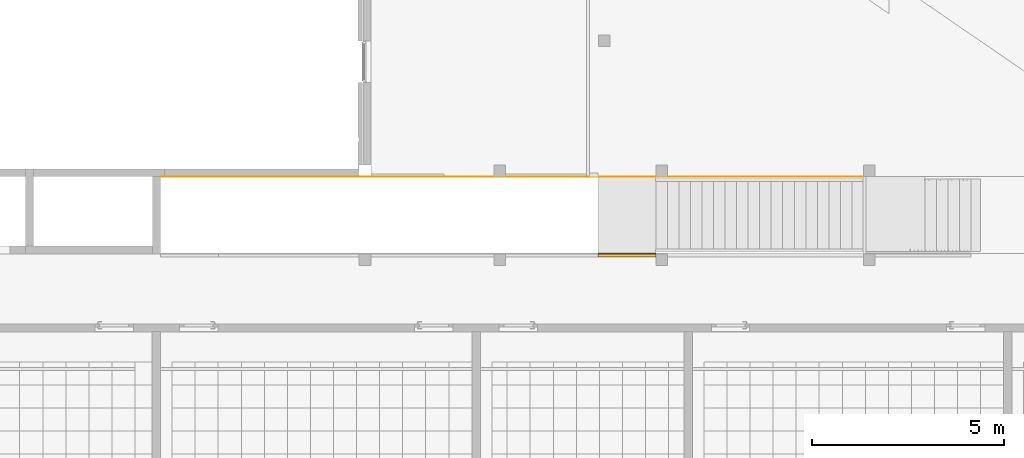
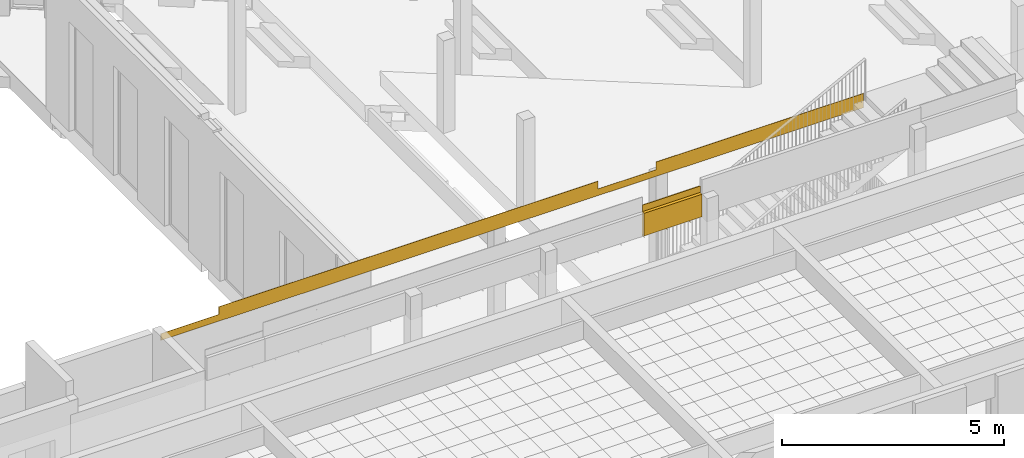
# One storey, part 56 of 79: 2 coverings.
"""IFC2X3 building model written with IfcOpenShell, lengths in millimetres."""

from ifc_helpers import new_model, entity, si_unit, converted_unit, derived_unit, money_unit, direction, frame, origin_with_axes, place, context, subcontext, project, spatial, faceted_brep, material, material_list, type_object, element, save


model = new_model("IFC2X3")

# Units and contexts
model_context = context("Model", 3, precision=0.01, world=origin_with_axes(), true_north=direction((0.0, 1.0)))
body_context = subcontext(model_context, "Body", "Model", "MODEL_VIEW")
ifc_project = project(units=[si_unit("LENGTHUNIT", "METRE", prefix="MILLI"), si_unit("AREAUNIT", "SQUARE_METRE"), si_unit("VOLUMEUNIT", "CUBIC_METRE"), converted_unit("PLANEANGLEUNIT", "DEGREE", entity("IfcPlaneAngleMeasure", 0.0174532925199), si_unit("PLANEANGLEUNIT", "RADIAN"), dimensions=[0, 0, 0, 0, 0, 0, 0]), si_unit("SOLIDANGLEUNIT", "STERADIAN"), money_unit("EUR"), converted_unit("TIMEUNIT", "Year", entity("IfcTimeMeasure", 31556926.0), si_unit("TIMEUNIT", "SECOND"), dimensions=[0, 0, 1, 0, 0, 0, 0]), si_unit("MASSUNIT", "GRAM", prefix="KILO"), si_unit("THERMODYNAMICTEMPERATUREUNIT", "DEGREE_CELSIUS"), si_unit("LUMINOUSINTENSITYUNIT", "LUMEN"), si_unit("ENERGYUNIT", "JOULE", prefix="MEGA"), derived_unit("THERMALCONDUCTANCEUNIT", [(si_unit("POWERUNIT", "WATT"), 1), (si_unit("LENGTHUNIT", "METRE"), -1), (si_unit("THERMODYNAMICTEMPERATUREUNIT", "KELVIN"), -1)]), derived_unit("SPECIFICHEATCAPACITYUNIT", [(si_unit("ENERGYUNIT", "JOULE"), 1), (si_unit("MASSUNIT", "GRAM", prefix="KILO"), -1), (si_unit("THERMODYNAMICTEMPERATUREUNIT", "KELVIN"), -1)]), derived_unit("MASSDENSITYUNIT", [(si_unit("MASSUNIT", "GRAM", prefix="KILO"), 1), (si_unit("VOLUMEUNIT", "CUBIC_METRE"), -1)])], contexts=[model_context])

# Site, building, storey
site_placement = place(None, origin_with_axes())
site = spatial("IfcSite", under=ifc_project, at=site_placement, Name="L.Koidula tn 11b", CompositionType="ELEMENT")
building_placement = place(site_placement, origin_with_axes())
building = spatial("IfcBuilding", under=site, at=building_placement, Name="Rakvere Riigigümnaasium", CompositionType="ELEMENT")
storey_placement = place(building_placement, frame((0.0, 0.0, 3720.0), z_axis=(0.0, 0.0, 1.0), x_axis=(1.0, 0.0, 0.0)))
storey = spatial("IfcBuildingStorey", under=building, at=storey_placement, Name="2.korrus +3,72", CompositionType="ELEMENT", Elevation=3720.0)

# Coverings
ifc_material_1 = material(Name="Karkass")
ifc_material_2 = material(Name="Kipsplaat")
ifc_material_3 = material(Name="Alumiiniumprofiil")
ifc_material_4 = material(Name="Keraamiline plaat valge")
ifc_material_list_1 = material_list([ifc_material_1, ifc_material_2, ifc_material_3, ifc_material_3, ifc_material_4])
covering_type_1 = type_object("IfcCoveringType", Name="SA-Pinnakate-Ker 99", PredefinedType="CEILING")
covering_1_placement = place(storey_placement, frame((65599.9980678, 15100.4777458, 2650.0), z_axis=(0.0, 0.0, 1.0), x_axis=(-1.0, 0.0, 0.0)))
element("IfcCovering", 1, at=covering_1_placement, inside=storey, type_object=covering_type_1, material=ifc_material_list_1, Name="Pinnakate-keraamiline", PredefinedType="CEILING", context=body_context, shape_type="Brep", body=[
    faceted_brep([(1502.49999491, 17.5, 0.0), (1502.49999491, 17.5, 12.0), (1497.49999491, 17.5, 12.0), (1497.49999491, 17.5, 0.0), (1502.49999491, 83.5, 0.0), (1502.49999491, 83.5, 12.0), (1497.49999491, 83.5, 12.0), (1497.49999491, 83.5, 0.0)], [[[0, 1, 2, 3]], [[1, 0, 4, 5]], [[2, 1, 5, 6]], [[3, 2, 6, 7]], [[4, 0, 3, 7]], [[5, 4, 7, 6]]]),
    faceted_brep([(-1.41564271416e-06, 83.5, 54.5), (-2.96694224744e-07, 17.5, 54.5), (0.0, 17.5, 675.0), (0.0, 83.5, 675.0), (1509.99999181, 17.5, 54.5), (1509.99999181, 83.5, 54.5), (1509.99999181, 17.5, 675.0), (1509.99999181, 83.5, 675.0)], [[[0, 1, 2, 3]], [[4, 1, 0, 5]], [[1, 4, 6, 2]], [[2, 6, 7, 3]], [[5, 0, 3, 7]], [[4, 5, 7, 6]]]),
    faceted_brep([(902.499994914, 17.5, 0.0), (902.499994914, 17.5, 12.0), (897.499994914, 17.5, 12.0), (897.499994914, 17.5, 0.0), (902.499994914, 83.5, 0.0), (902.499994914, 83.5, 12.0), (897.499994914, 83.5, 12.0), (897.499994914, 83.5, 0.0)], [[[0, 1, 2, 3]], [[1, 0, 4, 5]], [[2, 1, 5, 6]], [[3, 2, 6, 7]], [[4, 0, 3, 7]], [[5, 4, 7, 6]]]),
    faceted_brep([(302.499994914, 17.5, 0.0), (302.499994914, 17.5, 12.0), (297.499994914, 17.5, 12.0), (297.499994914, 17.5, 0.0), (302.499994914, 83.5, 0.0), (302.499994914, 83.5, 12.0), (297.499994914, 83.5, 12.0), (297.499994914, 83.5, 0.0)], [[[0, 1, 2, 3]], [[1, 0, 4, 5]], [[2, 1, 5, 6]], [[3, 2, 6, 7]], [[4, 0, 3, 7]], [[5, 4, 7, 6]]]),
    faceted_brep([(1502.49999491, 5.0, 0.0), (1502.49999491, 5.0, 12.0), (1497.49999491, 5.0, 12.0), (1497.49999491, 5.0, 0.0), (1502.49999491, 17.5, 0.0), (1502.49999491, 17.5, 12.0), (1497.49999491, 17.5, 12.0), (1497.49999491, 17.5, 0.0)], [[[0, 1, 2, 3]], [[1, 0, 4, 5]], [[2, 1, 5, 6]], [[3, 2, 6, 7]], [[4, 0, 3, 7]], [[5, 4, 7, 6]]]),
    faceted_brep([(-2.96694224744e-07, 17.5, 54.5), (-8.47819592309e-08, 5.0, 54.5), (0.0, 5.0, 675.0), (0.0, 17.5, 675.0), (1509.99999181, 5.0, 54.5), (1509.99999181, 17.5, 54.5), (1509.99999181, 5.0, 675.0), (1509.99999181, 17.5, 675.0)], [[[0, 1, 2, 3]], [[4, 1, 0, 5]], [[1, 4, 6, 2]], [[2, 6, 7, 3]], [[5, 0, 3, 7]], [[4, 5, 7, 6]]]),
    faceted_brep([(902.499994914, 5.0, 0.0), (902.499994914, 5.0, 12.0), (897.499994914, 5.0, 12.0), (897.499994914, 5.0, 0.0), (902.499994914, 17.5, 0.0), (902.499994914, 17.5, 12.0), (897.499994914, 17.5, 12.0), (897.499994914, 17.5, 0.0)], [[[0, 1, 2, 3]], [[1, 0, 4, 5]], [[2, 1, 5, 6]], [[3, 2, 6, 7]], [[4, 0, 3, 7]], [[5, 4, 7, 6]]]),
    faceted_brep([(302.499994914, 5.0, 0.0), (302.499994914, 5.0, 12.0), (297.499994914, 5.0, 12.0), (297.499994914, 5.0, 0.0), (302.499994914, 17.5, 0.0), (302.499994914, 17.5, 12.0), (297.499994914, 17.5, 12.0), (297.499994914, 17.5, 0.0)], [[[0, 1, 2, 3]], [[1, 0, 4, 5]], [[2, 1, 5, 6]], [[3, 2, 6, 7]], [[4, 0, 3, 7]], [[5, 4, 7, 6]]]),
    faceted_brep([(1509.99999181, 0.0222240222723, 54.5), (1509.99999181, 0.0222240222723, 0.0), (1502.49999491, 0.0222240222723, 0.0), (1502.49999491, 0.0226270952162, 12.0), (1497.49999491, 0.0226257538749, 12.0), (1497.49999491, 0.0222240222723, 0.0), (902.499994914, 0.022224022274, 0.0), (902.499994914, 0.0224661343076, 12.0), (897.499994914, 0.0224647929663, 12.0), (897.499994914, 0.022224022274, 0.0), (302.499994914, 0.0222240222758, 0.0), (302.499994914, 0.022305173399, 12.0), (297.499994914, 0.0223038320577, 12.0), (297.499994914, 0.0222240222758, 0.0), (-3.8369307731e-10, 0.0222240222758, 0.0), (-3.8369307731e-10, 0.0222240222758, 54.5), (1509.99999181, 5.0, 54.5), (1509.99999181, 5.0, 675.0), (1509.99999181, -0.000687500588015, 675.0), (1509.99999181, 0.0, 0.0), (0.0, 0.0, 0.0), (297.499994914, 5.0, 0.0), (302.499994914, 5.0, 0.0), (897.499994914, 5.0, 0.0), (902.499994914, 5.0, 0.0), (1497.49999491, 5.0, 0.0), (1502.49999491, 5.0, 0.0), (1502.49999491, 5.0, 12.0), (1497.49999491, 5.0, 12.0), (902.499994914, 5.0, 12.0), (897.499994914, 5.0, 12.0), (302.499994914, 5.0, 12.0), (297.499994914, 5.0, 12.0), (0.0, -0.000673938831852, 675.0), (0.0, 5.0, 675.0), (-8.47819592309e-08, 5.0, 54.5)], [[[0, 1, 2, 3, 4, 5, 6, 7, 8, 9, 10, 11, 12, 13, 14, 15]], [[1, 0, 16, 17, 18, 19]], [[2, 1, 19, 20, 14, 13, 21, 22, 10, 9, 23, 24, 6, 5, 25, 26]], [[2, 26, 27, 3]], [[27, 28, 4, 3]], [[25, 5, 4, 28]], [[6, 24, 29, 7]], [[29, 30, 8, 7]], [[23, 9, 8, 30]], [[10, 22, 31, 11]], [[31, 32, 12, 11]], [[21, 13, 12, 32]], [[14, 20, 33, 34, 35, 15]], [[15, 35, 16, 0]], [[16, 35, 34, 17]], [[33, 18, 17, 34]], [[33, 20, 19, 18]], [[31, 22, 21, 32]], [[29, 24, 23, 30]], [[27, 26, 25, 28]]]),
    faceted_brep([(0.0, 0.0, 0.0), (1509.99999181, 0.0, 0.0), (1509.99999181, -10.0, 0.0), (0.0, -10.0, 0.0), (0.0, 0.0, 849.856183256), (1509.99999181, 0.0, 849.856183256), (1509.99999181, -10.0, 849.856183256), (0.0, -10.0, 849.856183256)], [[[0, 1, 2, 3]], [[4, 5, 1, 0]], [[2, 1, 5, 6]], [[3, 2, 6, 7]], [[4, 0, 3, 7]], [[7, 6, 5, 4]]]),
    faceted_brep([(1509.99999181, -15.0, 0.0), (0.0, -15.0, 0.0), (0.0, -10.0, 0.0), (1509.99999181, -10.0, 0.0), (1509.99999181, -15.0, 849.856183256), (0.0, -15.0, 849.856183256), (0.0, -10.0, 849.856183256), (1509.99999181, -10.0, 849.856183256)], [[[0, 1, 2, 3]], [[4, 5, 1, 0]], [[1, 5, 6, 2]], [[3, 2, 6, 7]], [[7, 4, 0, 3]], [[7, 6, 5, 4]]]),
])
ifc_material_list_2 = material_list([ifc_material_3, ifc_material_4])
covering_type_2 = type_object("IfcCoveringType", Name="SA-Pinnakate-Ker-10mm 10", PredefinedType="CEILING")
covering_2_placement = place(storey_placement, frame((52709.9999937, 17110.4555095, 2550.0), z_axis=(0.0, 0.0, 1.0), x_axis=(1.0, 0.0, 0.0)))
element("IfcCovering", 2, at=covering_2_placement, inside=storey, type_object=covering_type_2, material=ifc_material_list_2, Name="Pinnakate-keraamiline", PredefinedType="CEILING", context=body_context, shape_type="Brep", body=[
    faceted_brep([(11379.9980211, -4.33468976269e-05, 395.0), (11379.9980211, -4.33468976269e-05, 180.648338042), (12889.9980211, 2.62601673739e-06, 180.648338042), (12889.9980211, 2.62601673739e-06, 395.0), (18289.9981036, 0.0, 395.0), (18289.9981036, 0.0, 0.0), (0.0, 0.0, 0.0), (0.0, 0.0, 180.657214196), (1510.0, 0.0, 180.657214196), (1510.0, 0.0, 395.0), (11379.9980213, -5.0, 182.576182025), (11379.9980213, -5.0, 395.0), (12889.9980213, -5.0, 182.576199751), (12889.9980213, -5.0, 395.0), (18289.9981036, -5.0, 395.0), (18289.9981036, -5.0, 0.0), (0.0, -5.0, 0.0), (0.0, -5.0, 182.585074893), (1510.0, -5.0, 182.585074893), (1510.0, -5.0, 395.0)], [[[0, 1, 2, 3, 4, 5, 6, 7, 8, 9]], [[10, 1, 0, 11]], [[1, 10, 12, 2]], [[12, 13, 3, 2]], [[4, 3, 13, 14]], [[4, 14, 15, 5]], [[15, 16, 6, 5]], [[6, 16, 17, 7]], [[17, 18, 8, 7]], [[8, 18, 19, 9]], [[19, 11, 0, 9]], [[12, 10, 11, 19, 18, 17, 16, 15, 14, 13]]]),
    faceted_brep([(11379.9980213, -5.0, 395.0), (11379.9980213, -5.0, 182.576182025), (12889.9980213, -5.0, 182.576199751), (12889.9980213, -5.0, 395.0), (18289.9981036, -5.0, 395.0), (18289.9981036, -5.0, 0.0), (0.0, -5.0, 0.0), (0.0, -5.0, 182.585074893), (1510.0, -5.0, 182.585074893), (1510.0, -5.0, 395.0), (11379.9980214, -10.0, 184.504042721), (11379.9980214, -10.0, 395.0), (12889.9980214, -10.0, 184.504060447), (12889.9980214, -10.0, 395.0), (18289.9981036, -10.0, 395.0), (18289.9981036, -10.0, 0.0), (0.0, -10.0, 0.0), (0.0, -10.0, 184.512935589), (1510.0, -10.0, 184.512935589), (1510.0, -10.0, 395.0)], [[[0, 1, 2, 3, 4, 5, 6, 7, 8, 9]], [[10, 1, 0, 11]], [[12, 2, 1, 10]], [[12, 13, 3, 2]], [[4, 3, 13, 14]], [[4, 14, 15, 5]], [[15, 16, 6, 5]], [[6, 16, 17, 7]], [[17, 18, 8, 7]], [[8, 18, 19, 9]], [[19, 11, 0, 9]], [[12, 10, 11, 19, 18, 17, 16, 15, 14, 13]]]),
])

save(model, "model.ifc")
